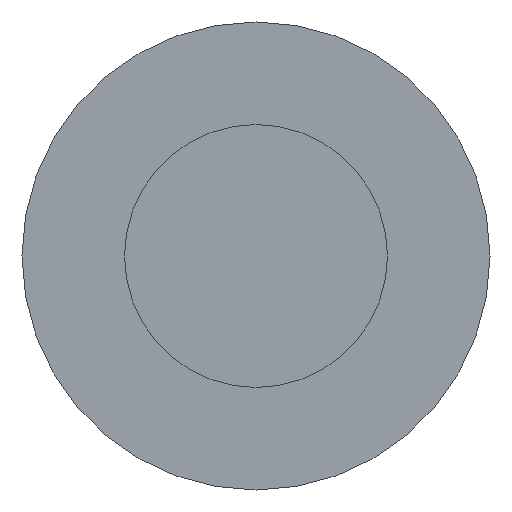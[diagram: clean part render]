
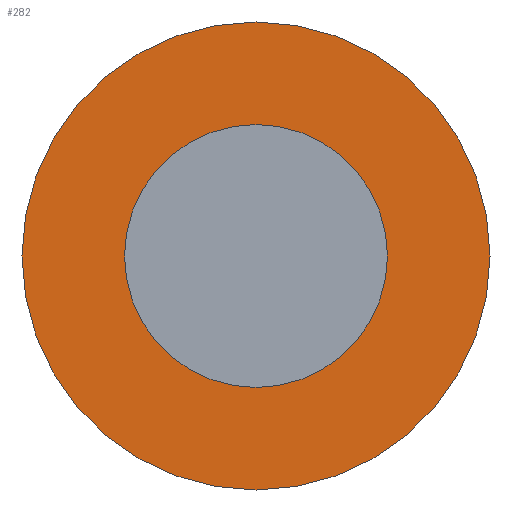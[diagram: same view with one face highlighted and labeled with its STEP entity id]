
A CAD part, front view. The second image highlights one B-rep face of the part: STEP entity #282.
In plain terms, the highlighted planar face has unit normal (0, -1, 0).
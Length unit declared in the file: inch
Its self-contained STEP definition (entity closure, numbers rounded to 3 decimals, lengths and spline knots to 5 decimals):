
#18 = AXIS2_PLACEMENT_3D ( 'NONE', #139, #200, #364 ) ;
#23 = DIRECTION ( 'NONE',  ( 0., -1., 0. ) ) ;
#24 = AXIS2_PLACEMENT_3D ( 'NONE', #107, #198, #303 ) ;
#39 = DIRECTION ( 'NONE',  ( 0., 0., -1. ) ) ;
#45 = CARTESIAN_POINT ( 'NONE',  ( 0., -0.258, 0. ) ) ;
#52 = ORIENTED_EDGE ( 'NONE', *, *, #288, .T. ) ;
#101 = CARTESIAN_POINT ( 'NONE',  ( 0., -0.258, 0.125 ) ) ;
#104 = EDGE_CURVE ( 'NONE', #309, #140, #137, .T. ) ;
#107 = CARTESIAN_POINT ( 'NONE',  ( 0., -0.258, 0. ) ) ;
#114 = AXIS2_PLACEMENT_3D ( 'NONE', #196, #23, #362 ) ;
#124 = CARTESIAN_POINT ( 'NONE',  ( 0., -0.258, 0. ) ) ;
#137 = CIRCLE ( 'NONE', #171, 0.125 ) ;
#139 = CARTESIAN_POINT ( 'NONE',  ( 0., -0.258, 0. ) ) ;
#140 = VERTEX_POINT ( 'NONE', #101 ) ;
#142 = ORIENTED_EDGE ( 'NONE', *, *, #104, .F. ) ;
#171 = AXIS2_PLACEMENT_3D ( 'NONE', #45, #217, #39 ) ;
#183 = CARTESIAN_POINT ( 'NONE',  ( 0., -0.258, -0.125 ) ) ;
#186 = AXIS2_PLACEMENT_3D ( 'NONE', #124, #355, #188 ) ;
#188 = DIRECTION ( 'NONE',  ( 0., 0., -1. ) ) ;
#195 = VERTEX_POINT ( 'NONE', #264 ) ;
#196 = CARTESIAN_POINT ( 'NONE',  ( 0., -0.258, -0.125 ) ) ;
#198 = DIRECTION ( 'NONE',  ( 0., -1., 0. ) ) ;
#200 = DIRECTION ( 'NONE',  ( 0., -1., 0. ) ) ;
#210 = VERTEX_POINT ( 'NONE', #262 ) ;
#211 = EDGE_CURVE ( 'NONE', #210, #195, #336, .T. ) ;
#217 = DIRECTION ( 'NONE',  ( 0., -1., 0. ) ) ;
#223 = FACE_OUTER_BOUND ( 'NONE', #335, .T. ) ;
#225 = ORIENTED_EDGE ( 'NONE', *, *, #211, .T. ) ;
#242 = EDGE_CURVE ( 'NONE', #140, #309, #350, .T. ) ;
#245 = FACE_BOUND ( 'NONE', #278, .T. ) ;
#262 = CARTESIAN_POINT ( 'NONE',  ( 0., -0.258, 0.2225 ) ) ;
#264 = CARTESIAN_POINT ( 'NONE',  ( 0., -0.258, -0.2225 ) ) ;
#273 = ORIENTED_EDGE ( 'NONE', *, *, #242, .F. ) ;
#278 = EDGE_LOOP ( 'NONE', ( #142, #273 ) ) ;
#282 = ADVANCED_FACE ( 'NONE', ( #223, #245 ), #358, .T. ) ;
#288 = EDGE_CURVE ( 'NONE', #195, #210, #292, .T. ) ;
#292 = CIRCLE ( 'NONE', #18, 0.2225 ) ;
#303 = DIRECTION ( 'NONE',  ( 0., 0., -1. ) ) ;
#309 = VERTEX_POINT ( 'NONE', #183 ) ;
#335 = EDGE_LOOP ( 'NONE', ( #52, #225 ) ) ;
#336 = CIRCLE ( 'NONE', #186, 0.2225 ) ;
#350 = CIRCLE ( 'NONE', #24, 0.125 ) ;
#355 = DIRECTION ( 'NONE',  ( 0., -1., 0. ) ) ;
#358 = PLANE ( 'NONE',  #114 ) ;
#362 = DIRECTION ( 'NONE',  ( 0., 0., -1. ) ) ;
#364 = DIRECTION ( 'NONE',  ( 0., 0., -1. ) ) ;
